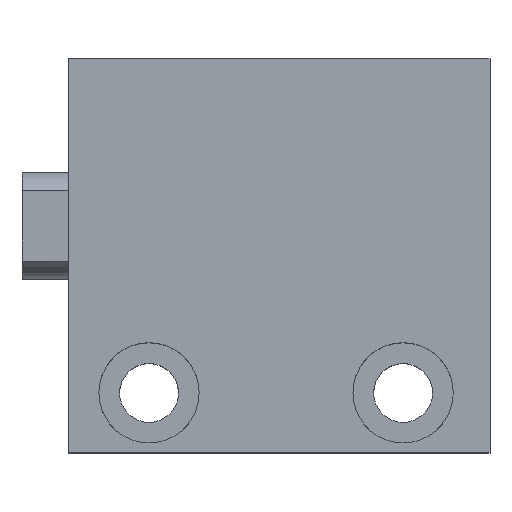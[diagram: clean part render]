
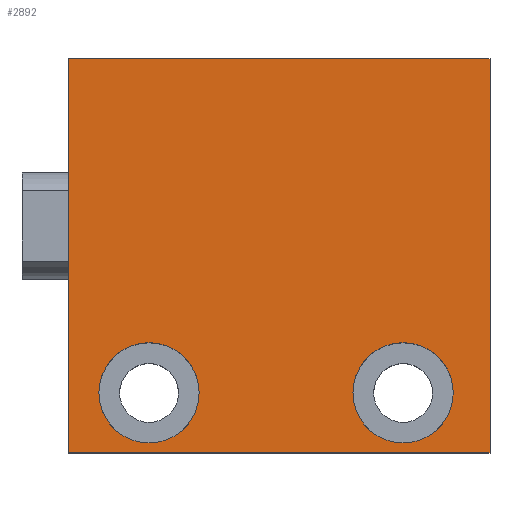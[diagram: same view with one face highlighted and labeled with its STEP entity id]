
A CAD part, top view. The second image highlights one B-rep face of the part: STEP entity #2892.
In plain terms, the highlighted planar face has unit normal (0, 0, 1).
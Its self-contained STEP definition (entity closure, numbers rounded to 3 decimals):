
#23 = CIRCLE ( 'NONE', #430, 3.75 ) ;
#152 = AXIS2_PLACEMENT_3D ( 'NONE', #2256, #2936, #2432 ) ;
#189 = LINE ( 'NONE', #2626, #3078 ) ;
#196 = VERTEX_POINT ( 'NONE', #2959 ) ;
#222 = CIRCLE ( 'NONE', #1023, 3.75 ) ;
#226 = LINE ( 'NONE', #1646, #1314 ) ;
#233 = CARTESIAN_POINT ( 'NONE',  ( 21.25, -12.5, 10.5 ) ) ;
#244 = EDGE_CURVE ( 'NONE', #411, #767, #1919, .T. ) ;
#259 = AXIS2_PLACEMENT_3D ( 'NONE', #2984, #1780, #2741 ) ;
#264 = EDGE_CURVE ( 'NONE', #1606, #1367, #421, .T. ) ;
#311 = VECTOR ( 'NONE', #407, 1000. ) ;
#323 = FACE_BOUND ( 'NONE', #2878, .T. ) ;
#372 = ORIENTED_EDGE ( 'NONE', *, *, #2730, .F. ) ;
#407 = DIRECTION ( 'NONE',  ( -1., 0., 0. ) ) ;
#411 = VERTEX_POINT ( 'NONE', #1978 ) ;
#421 = LINE ( 'NONE', #3017, #2294 ) ;
#430 = AXIS2_PLACEMENT_3D ( 'NONE', #2996, #1841, #2032 ) ;
#447 = DIRECTION ( 'NONE',  ( 0., 1., 0. ) ) ;
#524 = FACE_BOUND ( 'NONE', #3057, .T. ) ;
#573 = ORIENTED_EDGE ( 'NONE', *, *, #264, .T. ) ;
#671 = EDGE_LOOP ( 'NONE', ( #372, #900, #2160, #573 ) ) ;
#767 = VERTEX_POINT ( 'NONE', #233 ) ;
#809 = CIRCLE ( 'NONE', #259, 3.75 ) ;
#829 = DIRECTION ( 'NONE',  ( 0., 0., 1. ) ) ;
#900 = ORIENTED_EDGE ( 'NONE', *, *, #2572, .F. ) ;
#960 = ORIENTED_EDGE ( 'NONE', *, *, #1385, .F. ) ;
#1020 = ORIENTED_EDGE ( 'NONE', *, *, #244, .F. ) ;
#1023 = AXIS2_PLACEMENT_3D ( 'NONE', #1148, #3100, #2107 ) ;
#1148 = CARTESIAN_POINT ( 'NONE',  ( 6., -12.5, 10.5 ) ) ;
#1277 = VERTEX_POINT ( 'NONE', #2343 ) ;
#1314 = VECTOR ( 'NONE', #447, 1000. ) ;
#1367 = VERTEX_POINT ( 'NONE', #1585 ) ;
#1385 = EDGE_CURVE ( 'NONE', #767, #411, #23, .T. ) ;
#1538 = CARTESIAN_POINT ( 'NONE',  ( 9.75, -12.5, 10.5 ) ) ;
#1581 = ORIENTED_EDGE ( 'NONE', *, *, #1940, .F. ) ;
#1585 = CARTESIAN_POINT ( 'NONE',  ( 0., 12.5, 10.5 ) ) ;
#1601 = LINE ( 'NONE', #3041, #311 ) ;
#1606 = VERTEX_POINT ( 'NONE', #1728 ) ;
#1646 = CARTESIAN_POINT ( 'NONE',  ( 0., -17., 10.5 ) ) ;
#1690 = VERTEX_POINT ( 'NONE', #1538 ) ;
#1728 = CARTESIAN_POINT ( 'NONE',  ( 31.5, 12.5, 10.5 ) ) ;
#1765 = AXIS2_PLACEMENT_3D ( 'NONE', #2261, #829, #2752 ) ;
#1768 = PLANE ( 'NONE',  #152 ) ;
#1780 = DIRECTION ( 'NONE',  ( 0., 0., 1. ) ) ;
#1841 = DIRECTION ( 'NONE',  ( 0., 0., 1. ) ) ;
#1873 = DIRECTION ( 'NONE',  ( -1., 0., 0. ) ) ;
#1919 = CIRCLE ( 'NONE', #1765, 3.75 ) ;
#1940 = EDGE_CURVE ( 'NONE', #2828, #1690, #222, .T. ) ;
#1978 = CARTESIAN_POINT ( 'NONE',  ( 28.75, -12.5, 10.5 ) ) ;
#1989 = ORIENTED_EDGE ( 'NONE', *, *, #2965, .F. ) ;
#2032 = DIRECTION ( 'NONE',  ( 1., 0., 0. ) ) ;
#2107 = DIRECTION ( 'NONE',  ( 1., 0., 0. ) ) ;
#2160 = ORIENTED_EDGE ( 'NONE', *, *, #2515, .T. ) ;
#2256 = CARTESIAN_POINT ( 'NONE',  ( 31.5, -17., 10.5 ) ) ;
#2261 = CARTESIAN_POINT ( 'NONE',  ( 25., -12.5, 10.5 ) ) ;
#2294 = VECTOR ( 'NONE', #1873, 1000. ) ;
#2343 = CARTESIAN_POINT ( 'NONE',  ( 0., -17., 10.5 ) ) ;
#2432 = DIRECTION ( 'NONE',  ( 0., 1., 0. ) ) ;
#2515 = EDGE_CURVE ( 'NONE', #196, #1606, #189, .T. ) ;
#2572 = EDGE_CURVE ( 'NONE', #196, #1277, #1601, .T. ) ;
#2585 = CARTESIAN_POINT ( 'NONE',  ( 2.25, -12.5, 10.5 ) ) ;
#2609 = DIRECTION ( 'NONE',  ( 0., 1., 0. ) ) ;
#2626 = CARTESIAN_POINT ( 'NONE',  ( 31.5, -17., 10.5 ) ) ;
#2679 = FACE_OUTER_BOUND ( 'NONE', #671, .T. ) ;
#2730 = EDGE_CURVE ( 'NONE', #1277, #1367, #226, .T. ) ;
#2741 = DIRECTION ( 'NONE',  ( 1., 0., 0. ) ) ;
#2752 = DIRECTION ( 'NONE',  ( 1., 0., 0. ) ) ;
#2828 = VERTEX_POINT ( 'NONE', #2585 ) ;
#2878 = EDGE_LOOP ( 'NONE', ( #1020, #960 ) ) ;
#2892 = ADVANCED_FACE ( 'NONE', ( #2679, #323, #524 ), #1768, .T. ) ;
#2936 = DIRECTION ( 'NONE',  ( 0., 0., 1. ) ) ;
#2959 = CARTESIAN_POINT ( 'NONE',  ( 31.5, -17., 10.5 ) ) ;
#2965 = EDGE_CURVE ( 'NONE', #1690, #2828, #809, .T. ) ;
#2984 = CARTESIAN_POINT ( 'NONE',  ( 6., -12.5, 10.5 ) ) ;
#2996 = CARTESIAN_POINT ( 'NONE',  ( 25., -12.5, 10.5 ) ) ;
#3017 = CARTESIAN_POINT ( 'NONE',  ( 31.5, 12.5, 10.5 ) ) ;
#3041 = CARTESIAN_POINT ( 'NONE',  ( 31.5, -17., 10.5 ) ) ;
#3057 = EDGE_LOOP ( 'NONE', ( #1989, #1581 ) ) ;
#3078 = VECTOR ( 'NONE', #2609, 1000. ) ;
#3100 = DIRECTION ( 'NONE',  ( 0., 0., 1. ) ) ;
